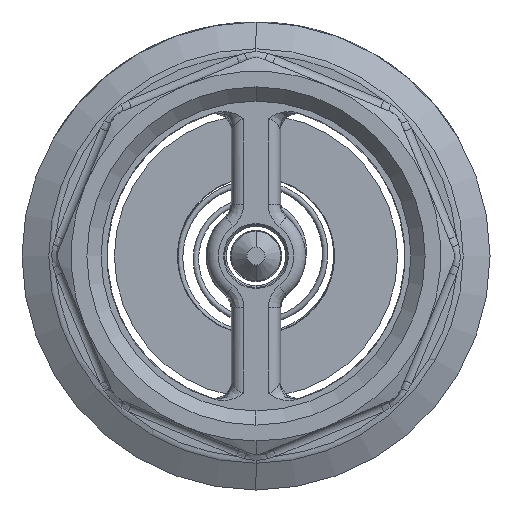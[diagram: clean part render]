
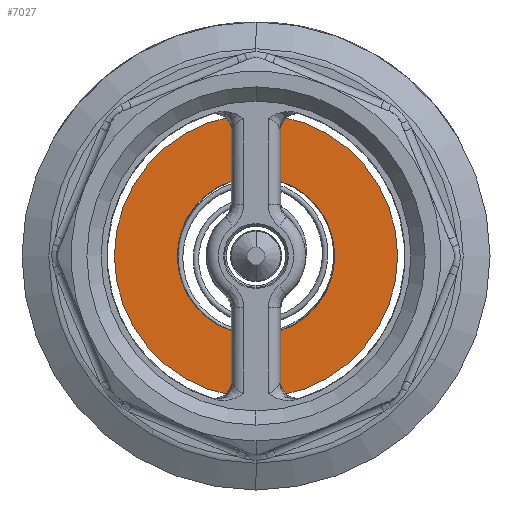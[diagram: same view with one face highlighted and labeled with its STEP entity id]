
A CAD part, front view. The second image highlights one B-rep face of the part: STEP entity #7027.
In plain terms, the highlighted planar face has unit normal (0, -1, 0).
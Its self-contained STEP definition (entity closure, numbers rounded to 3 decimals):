
#131 = DIRECTION ( 'NONE',  ( 0., 0., -1. ) ) ;
#1026 = DIRECTION ( 'NONE',  ( 0., -1., 0. ) ) ;
#1815 = EDGE_LOOP ( 'NONE', ( #16853, #19023 ) ) ;
#1869 = DIRECTION ( 'NONE',  ( 0., -1., 0. ) ) ;
#1936 = AXIS2_PLACEMENT_3D ( 'NONE', #11537, #1869, #13148 ) ;
#2074 = FACE_BOUND ( 'NONE', #15561, .T. ) ;
#3134 = CARTESIAN_POINT ( 'NONE',  ( 0., -46.483, -18. ) ) ;
#3240 = CARTESIAN_POINT ( 'NONE',  ( 0., -46.483, -10. ) ) ;
#3797 = VERTEX_POINT ( 'NONE', #7317 ) ;
#3940 = DIRECTION ( 'NONE',  ( 0., -1., 0. ) ) ;
#4250 = CIRCLE ( 'NONE', #16027, 10. ) ;
#4373 = VERTEX_POINT ( 'NONE', #3134 ) ;
#5724 = VERTEX_POINT ( 'NONE', #3240 ) ;
#5836 = FACE_OUTER_BOUND ( 'NONE', #1815, .T. ) ;
#7027 = ADVANCED_FACE ( 'NONE', ( #5836, #2074 ), #20481, .T. ) ;
#7076 = CIRCLE ( 'NONE', #1936, 18. ) ;
#7164 = AXIS2_PLACEMENT_3D ( 'NONE', #19503, #9796, #131 ) ;
#7317 = CARTESIAN_POINT ( 'NONE',  ( 0., -46.483, 10. ) ) ;
#7544 = DIRECTION ( 'NONE',  ( 0., 0., -1. ) ) ;
#8952 = VERTEX_POINT ( 'NONE', #15791 ) ;
#9796 = DIRECTION ( 'NONE',  ( 0., -1., 0. ) ) ;
#10682 = CARTESIAN_POINT ( 'NONE',  ( 0., -46.483, 0. ) ) ;
#11537 = CARTESIAN_POINT ( 'NONE',  ( 0., -46.483, 0. ) ) ;
#11890 = CIRCLE ( 'NONE', #16843, 18. ) ;
#12019 = AXIS2_PLACEMENT_3D ( 'NONE', #14011, #17260, #7544 ) ;
#12305 = DIRECTION ( 'NONE',  ( 0., 0., -1. ) ) ;
#12738 = EDGE_CURVE ( 'NONE', #5724, #3797, #17375, .T. ) ;
#13148 = DIRECTION ( 'NONE',  ( 0., 0., -1. ) ) ;
#13615 = CARTESIAN_POINT ( 'NONE',  ( 0., -46.483, 0. ) ) ;
#14011 = CARTESIAN_POINT ( 'NONE',  ( 10., -46.483, 0. ) ) ;
#14755 = EDGE_CURVE ( 'NONE', #4373, #8952, #7076, .T. ) ;
#15244 = DIRECTION ( 'NONE',  ( 0., 0., -1. ) ) ;
#15561 = EDGE_LOOP ( 'NONE', ( #20753, #19103 ) ) ;
#15791 = CARTESIAN_POINT ( 'NONE',  ( 0., -46.483, 18. ) ) ;
#16027 = AXIS2_PLACEMENT_3D ( 'NONE', #13615, #3940, #15244 ) ;
#16843 = AXIS2_PLACEMENT_3D ( 'NONE', #10682, #1026, #12305 ) ;
#16853 = ORIENTED_EDGE ( 'NONE', *, *, #14755, .T. ) ;
#17260 = DIRECTION ( 'NONE',  ( 0., -1., 0. ) ) ;
#17375 = CIRCLE ( 'NONE', #7164, 10. ) ;
#17867 = EDGE_CURVE ( 'NONE', #8952, #4373, #11890, .T. ) ;
#18726 = EDGE_CURVE ( 'NONE', #3797, #5724, #4250, .T. ) ;
#19023 = ORIENTED_EDGE ( 'NONE', *, *, #17867, .T. ) ;
#19103 = ORIENTED_EDGE ( 'NONE', *, *, #18726, .F. ) ;
#19503 = CARTESIAN_POINT ( 'NONE',  ( 0., -46.483, 0. ) ) ;
#20481 = PLANE ( 'NONE',  #12019 ) ;
#20753 = ORIENTED_EDGE ( 'NONE', *, *, #12738, .F. ) ;
